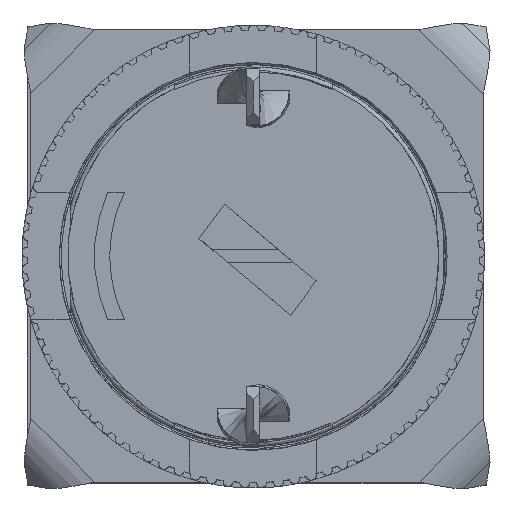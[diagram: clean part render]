
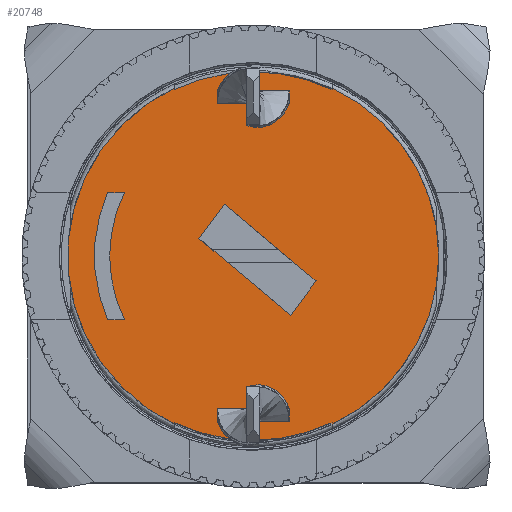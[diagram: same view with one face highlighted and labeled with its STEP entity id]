
A CAD part, top view. The second image highlights one B-rep face of the part: STEP entity #20748.
In plain terms, the highlighted planar face has unit normal (0, 0, 1).
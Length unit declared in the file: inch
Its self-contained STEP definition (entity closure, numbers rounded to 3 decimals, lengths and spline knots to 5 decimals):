
#4952=DIRECTION('',(0.,1.,0.));
#4953=VECTOR('',#4952,0.05527);
#4954=CARTESIAN_POINT('',(5.8,2.29092,-8.25));
#4955=LINE('',#4954,#4953);
#5139=CARTESIAN_POINT('',(8.9,8.9,-8.25));
#5140=DIRECTION('',(0.,0.,-1.));
#5141=DIRECTION('',(0.428,-0.904,0.));
#5142=AXIS2_PLACEMENT_3D('',#5139,#5140,#5141);
#5144=CARTESIAN_POINT('',(8.9,8.9,-8.25));
#5145=DIRECTION('',(0.,0.,-1.));
#5146=DIRECTION('',(-0.425,-0.905,0.));
#5147=AXIS2_PLACEMENT_3D('',#5144,#5145,#5146);
#5149=CARTESIAN_POINT('',(8.9,8.9,-8.25));
#5150=DIRECTION('',(0.,0.,-1.));
#5151=DIRECTION('',(-0.428,0.904,0.));
#5152=AXIS2_PLACEMENT_3D('',#5149,#5150,#5151);
#5154=CARTESIAN_POINT('',(8.9,8.9,-8.25));
#5155=DIRECTION('',(0.,0.,-1.));
#5156=DIRECTION('',(0.425,0.905,0.));
#5157=AXIS2_PLACEMENT_3D('',#5154,#5155,#5156);
#5159=CARTESIAN_POINT('',(8.9,8.9,-8.25));
#5160=DIRECTION('',(0.,0.,-1.));
#5161=DIRECTION('',(1.,0.,0.));
#5162=AXIS2_PLACEMENT_3D('',#5159,#5160,#5161);
#5164=CARTESIAN_POINT('',(8.9,8.9,-8.25));
#5165=DIRECTION('',(0.,0.,1.));
#5166=DIRECTION('',(-0.917,0.4,0.));
#5167=AXIS2_PLACEMENT_3D('',#5164,#5165,#5166);
#5169=CARTESIAN_POINT('',(8.9,8.9,-8.25));
#5170=DIRECTION('',(0.,0.,-1.));
#5171=DIRECTION('',(-0.897,-0.442,0.));
#5172=AXIS2_PLACEMENT_3D('',#5169,#5170,#5171);
#5174=DIRECTION('',(0.766,-0.643,0.));
#5175=VECTOR('',#5174,4.70844);
#5176=CARTESIAN_POINT('',(6.76139,9.59797,-8.25));
#5177=LINE('',#5176,#5175);
#5178=DIRECTION('',(0.596,0.803,0.));
#5179=VECTOR('',#5178,1.68302);
#5180=CARTESIAN_POINT('',(10.36826,6.57144,-8.25));
#5181=LINE('',#5180,#5179);
#5182=DIRECTION('',(-0.766,0.643,0.));
#5183=VECTOR('',#5182,4.70844);
#5184=CARTESIAN_POINT('',(11.371,7.92313,-8.25));
#5185=LINE('',#5184,#5183);
#5186=DIRECTION('',(-0.596,-0.803,0.));
#5187=VECTOR('',#5186,1.68302);
#5188=CARTESIAN_POINT('',(7.76413,10.94965,-8.25));
#5189=LINE('',#5188,#5187);
#5190=DIRECTION('',(0.,-1.,0.));
#5191=VECTOR('',#5190,0.05527);
#5192=CARTESIAN_POINT('',(12.,2.34618,-8.25));
#5193=LINE('',#5192,#5191);
#5742=DIRECTION('',(0.,-1.,0.));
#5743=VECTOR('',#5742,0.05527);
#5744=CARTESIAN_POINT('',(12.,15.50908,-8.25));
#5745=LINE('',#5744,#5743);
#5798=DIRECTION('',(0.,1.,0.));
#5799=VECTOR('',#5798,0.05527);
#5800=CARTESIAN_POINT('',(5.8,15.45382,-8.25));
#5801=LINE('',#5800,#5799);
#7107=DIRECTION('',(1.,0.,0.));
#7108=VECTOR('',#7107,0.66142);
#7109=CARTESIAN_POINT('',(3.17178,11.4,-8.25));
#7110=LINE('',#7109,#7108);
#7119=DIRECTION('',(-1.,0.,0.));
#7120=VECTOR('',#7119,0.66142);
#7121=CARTESIAN_POINT('',(3.8332,6.4,-8.25));
#7122=LINE('',#7121,#7120);
#7229=DIRECTION('',(1.,0.,0.));
#7230=VECTOR('',#7229,2.82);
#7231=CARTESIAN_POINT('',(7.49,2.9,-8.25));
#7232=LINE('',#7231,#7230);
#7317=DIRECTION('',(0.,-1.,0.));
#7318=VECTOR('',#7317,0.5);
#7319=CARTESIAN_POINT('',(10.31,2.9,-8.25));
#7320=LINE('',#7319,#7318);
#7339=DIRECTION('',(-1.,0.,0.));
#7340=VECTOR('',#7339,2.82);
#7341=CARTESIAN_POINT('',(10.31,2.4,-8.25));
#7342=LINE('',#7341,#7340);
#7399=DIRECTION('',(0.,1.,0.));
#7400=VECTOR('',#7399,0.5);
#7401=CARTESIAN_POINT('',(7.49,2.4,-8.25));
#7402=LINE('',#7401,#7400);
#7437=DIRECTION('',(-1.,0.,0.));
#7438=VECTOR('',#7437,2.82);
#7439=CARTESIAN_POINT('',(10.31,14.9,-8.25));
#7440=LINE('',#7439,#7438);
#7519=DIRECTION('',(0.,1.,0.));
#7520=VECTOR('',#7519,0.5);
#7521=CARTESIAN_POINT('',(7.49,14.9,-8.25));
#7522=LINE('',#7521,#7520);
#7539=DIRECTION('',(1.,0.,0.));
#7540=VECTOR('',#7539,2.82);
#7541=CARTESIAN_POINT('',(7.49,15.4,-8.25));
#7542=LINE('',#7541,#7540);
#7597=DIRECTION('',(0.,-1.,0.));
#7598=VECTOR('',#7597,0.5);
#7599=CARTESIAN_POINT('',(10.31,15.4,-8.25));
#7600=LINE('',#7599,#7598);
#14962=CARTESIAN_POINT('',(12.,2.34618,-8.25));
#14963=CARTESIAN_POINT('',(12.,2.29092,-8.25));
#14964=VERTEX_POINT('',#14962);
#14965=VERTEX_POINT('',#14963);
#14966=CARTESIAN_POINT('',(5.8,2.34618,-8.25));
#14967=VERTEX_POINT('',#14966);
#14968=CARTESIAN_POINT('',(5.8,2.29092,-8.25));
#14969=VERTEX_POINT('',#14968);
#14970=CARTESIAN_POINT('',(5.8,15.45382,-8.25));
#14971=CARTESIAN_POINT('',(5.8,15.50908,-8.25));
#14972=VERTEX_POINT('',#14970);
#14973=VERTEX_POINT('',#14971);
#14974=CARTESIAN_POINT('',(12.,15.45382,-8.25));
#14975=VERTEX_POINT('',#14974);
#14976=CARTESIAN_POINT('',(12.,15.50908,-8.25));
#14977=VERTEX_POINT('',#14976);
#14978=CARTESIAN_POINT('',(3.17178,11.4,-8.25));
#14979=CARTESIAN_POINT('',(3.17178,6.4,-8.25));
#14980=VERTEX_POINT('',#14978);
#14981=VERTEX_POINT('',#14979);
#14982=CARTESIAN_POINT('',(3.8332,6.4,-8.25));
#14983=VERTEX_POINT('',#14982);
#14984=CARTESIAN_POINT('',(3.8332,11.4,-8.25));
#14985=VERTEX_POINT('',#14984);
#14986=CARTESIAN_POINT('',(6.76139,9.59797,-8.25));
#14987=CARTESIAN_POINT('',(10.36826,6.57144,-8.25));
#14988=VERTEX_POINT('',#14986);
#14989=VERTEX_POINT('',#14987);
#14990=CARTESIAN_POINT('',(11.371,7.92313,-8.25));
#14991=VERTEX_POINT('',#14990);
#14992=CARTESIAN_POINT('',(7.76413,10.94965,-8.25));
#14993=VERTEX_POINT('',#14992);
#14994=CARTESIAN_POINT('',(7.49,2.9,-8.25));
#14995=CARTESIAN_POINT('',(10.31,2.9,-8.25));
#14996=VERTEX_POINT('',#14994);
#14997=VERTEX_POINT('',#14995);
#14998=CARTESIAN_POINT('',(7.49,2.4,-8.25));
#14999=VERTEX_POINT('',#14998);
#15000=CARTESIAN_POINT('',(10.31,2.4,-8.25));
#15001=VERTEX_POINT('',#15000);
#15002=CARTESIAN_POINT('',(10.31,14.9,-8.25));
#15003=CARTESIAN_POINT('',(7.49,14.9,-8.25));
#15004=VERTEX_POINT('',#15002);
#15005=VERTEX_POINT('',#15003);
#15006=CARTESIAN_POINT('',(10.31,15.4,-8.25));
#15007=VERTEX_POINT('',#15006);
#15008=CARTESIAN_POINT('',(7.49,15.4,-8.25));
#15009=VERTEX_POINT('',#15008);
#15019=CARTESIAN_POINT('',(16.2,8.9,-8.25));
#15020=VERTEX_POINT('',#15019);
#20684=CARTESIAN_POINT('',(8.9,8.9,-8.25));
#20685=DIRECTION('',(0.,0.,1.));
#20686=DIRECTION('',(1.,0.,0.));
#20687=AXIS2_PLACEMENT_3D('',#20684,#20685,#20686);
#20688=PLANE('',#20687);
#20690=ORIENTED_EDGE('',*,*,#20689,.F.);
#20692=ORIENTED_EDGE('',*,*,#20691,.T.);
#20693=ORIENTED_EDGE('',*,*,#20634,.F.);
#20695=ORIENTED_EDGE('',*,*,#20694,.T.);
#20697=ORIENTED_EDGE('',*,*,#20696,.F.);
#20699=ORIENTED_EDGE('',*,*,#20698,.T.);
#20701=ORIENTED_EDGE('',*,*,#20700,.F.);
#20703=ORIENTED_EDGE('',*,*,#20702,.T.);
#20705=ORIENTED_EDGE('',*,*,#20704,.T.);
#20706=EDGE_LOOP('',(#20690,#20692,#20693,#20695,#20697,#20699,#20701,#20703,
#20705));
#20707=FACE_OUTER_BOUND('',#20706,.F.);
#20709=ORIENTED_EDGE('',*,*,#20708,.T.);
#20711=ORIENTED_EDGE('',*,*,#20710,.F.);
#20713=ORIENTED_EDGE('',*,*,#20712,.T.);
#20715=ORIENTED_EDGE('',*,*,#20714,.F.);
#20716=EDGE_LOOP('',(#20709,#20711,#20713,#20715));
#20717=FACE_BOUND('',#20716,.F.);
#20719=ORIENTED_EDGE('',*,*,#20718,.T.);
#20721=ORIENTED_EDGE('',*,*,#20720,.T.);
#20723=ORIENTED_EDGE('',*,*,#20722,.T.);
#20725=ORIENTED_EDGE('',*,*,#20724,.T.);
#20726=EDGE_LOOP('',(#20719,#20721,#20723,#20725));
#20727=FACE_BOUND('',#20726,.F.);
#20729=ORIENTED_EDGE('',*,*,#20728,.F.);
#20731=ORIENTED_EDGE('',*,*,#20730,.F.);
#20733=ORIENTED_EDGE('',*,*,#20732,.F.);
#20735=ORIENTED_EDGE('',*,*,#20734,.F.);
#20736=EDGE_LOOP('',(#20729,#20731,#20733,#20735));
#20737=FACE_BOUND('',#20736,.F.);
#20739=ORIENTED_EDGE('',*,*,#20738,.F.);
#20741=ORIENTED_EDGE('',*,*,#20740,.F.);
#20743=ORIENTED_EDGE('',*,*,#20742,.F.);
#20745=ORIENTED_EDGE('',*,*,#20744,.F.);
#20746=EDGE_LOOP('',(#20739,#20741,#20743,#20745));
#20747=FACE_BOUND('',#20746,.F.);
#20748=ADVANCED_FACE('',(#20707,#20717,#20727,#20737,#20747),#20688,.T.);
#5143=CIRCLE('',#5142,7.25);
#5148=CIRCLE('',#5147,7.3);
#5153=CIRCLE('',#5152,7.25);
#5158=CIRCLE('',#5157,7.3);
#5163=CIRCLE('',#5162,7.3);
#5168=CIRCLE('',#5167,6.25);
#5173=CIRCLE('',#5172,5.65);
#20634=EDGE_CURVE('',#14969,#14967,#4955,.T.);
#20689=EDGE_CURVE('',#14964,#14965,#5193,.T.);
#20691=EDGE_CURVE('',#14964,#14967,#5143,.T.);
#20694=EDGE_CURVE('',#14969,#14973,#5148,.T.);
#20696=EDGE_CURVE('',#14972,#14973,#5801,.T.);
#20698=EDGE_CURVE('',#14972,#14975,#5153,.T.);
#20700=EDGE_CURVE('',#14977,#14975,#5745,.T.);
#20702=EDGE_CURVE('',#14977,#15020,#5158,.T.);
#20704=EDGE_CURVE('',#15020,#14965,#5163,.T.);
#20708=EDGE_CURVE('',#14980,#14981,#5168,.T.);
#20710=EDGE_CURVE('',#14983,#14981,#7122,.T.);
#20712=EDGE_CURVE('',#14983,#14985,#5173,.T.);
#20714=EDGE_CURVE('',#14980,#14985,#7110,.T.);
#20718=EDGE_CURVE('',#14988,#14989,#5177,.T.);
#20720=EDGE_CURVE('',#14989,#14991,#5181,.T.);
#20722=EDGE_CURVE('',#14991,#14993,#5185,.T.);
#20724=EDGE_CURVE('',#14993,#14988,#5189,.T.);
#20728=EDGE_CURVE('',#14996,#14997,#7232,.T.);
#20730=EDGE_CURVE('',#14999,#14996,#7402,.T.);
#20732=EDGE_CURVE('',#15001,#14999,#7342,.T.);
#20734=EDGE_CURVE('',#14997,#15001,#7320,.T.);
#20738=EDGE_CURVE('',#15004,#15005,#7440,.T.);
#20740=EDGE_CURVE('',#15007,#15004,#7600,.T.);
#20742=EDGE_CURVE('',#15009,#15007,#7542,.T.);
#20744=EDGE_CURVE('',#15005,#15009,#7522,.T.);
